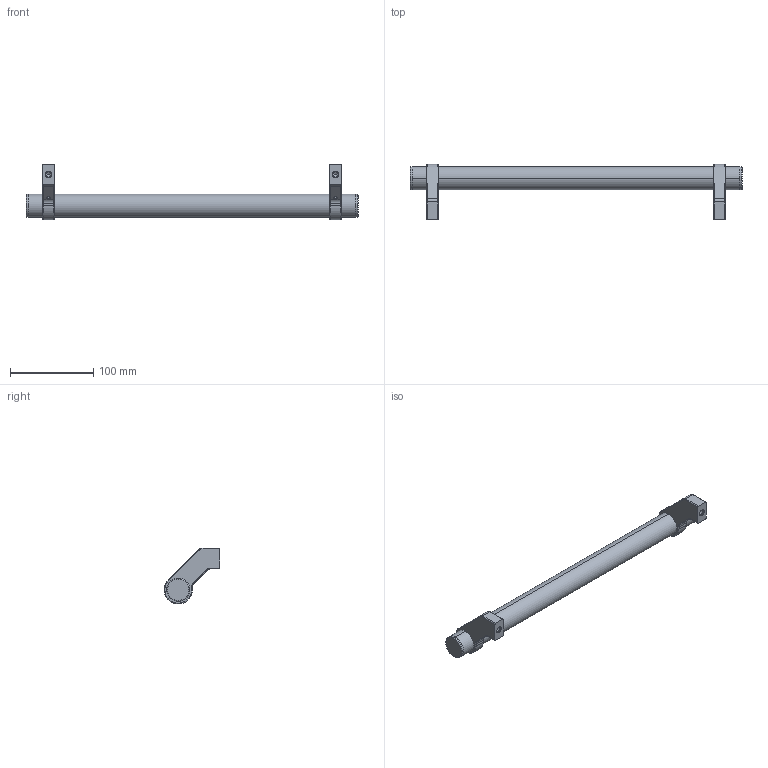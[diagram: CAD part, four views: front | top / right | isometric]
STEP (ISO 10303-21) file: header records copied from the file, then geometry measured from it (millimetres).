
FILE_DESCRIPTION (( 'STEP AP214' ), '1' );
FILE_NAME ('333.2-28-392-A-SW.step', '2020-01-27T11:11:55', ( '' ), ( '' ), 'SwSTEP 2.0', 'SolidWorks 2019', '' );
FILE_SCHEMA (( 'AUTOMOTIVE_DESIGN' ));
Length unit declared in the file: millimetre
Products named in the file (3): WB333.8^WB333.2_28-A-SW; WB333.3_Rohr^WB333.2_28-392-A-SW; 333.2-28-392-A-SW
Assembly tree (3 placements, depth 2):
  333.2-28-392-A-SW
    WB333.3_Rohr^WB333.2_28-392-A-SW
    WB333.8^WB333.2_28-A-SW  x2
Bounding box: 398 x 66.97 x 67 mm (x, y, z)
Volume: 288460.5 mm3; surface area: 51916.6 mm2
Topology: 3 solids, 3 shells, 138 faces, 320 edges, 194 vertices
Faces by surface type: cylinder 58, plane 40, torus 24, cone 16
Entity records: 2682 total; most frequent: CARTESIAN_POINT 420, DIRECTION 417, ORIENTED_EDGE 342, EDGE_CURVE 171, AXIS2_PLACEMENT_3D 170, VERTEX_POINT 105, CIRCLE 88, EDGE_LOOP 84
